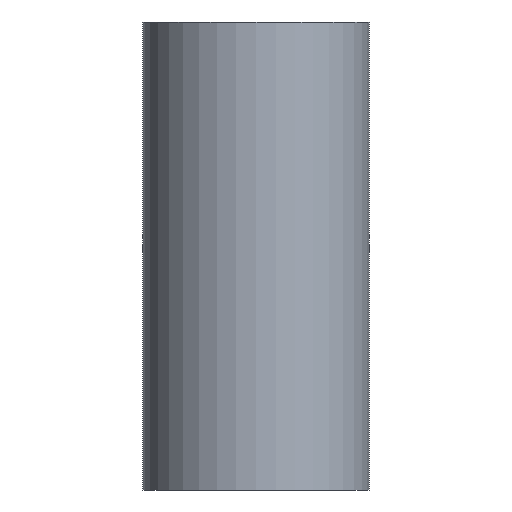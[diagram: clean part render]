
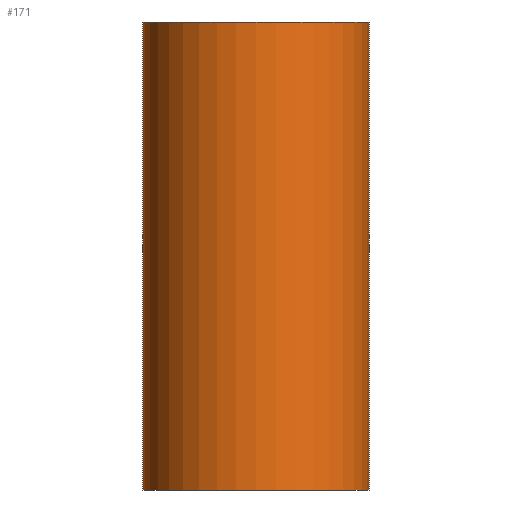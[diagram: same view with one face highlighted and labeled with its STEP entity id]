
A CAD part, front view. The second image highlights one B-rep face of the part: STEP entity #171.
In plain terms, the highlighted cylindrical face has radius 24.15 mm (diameter 48.3 mm), a partial arc.
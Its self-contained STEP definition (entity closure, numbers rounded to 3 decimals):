
#8 = DIRECTION ( 'NONE',  ( 1., 0., 0. ) ) ;
#9 = DIRECTION ( 'NONE',  ( 0., 0., 1. ) ) ;
#10 = CARTESIAN_POINT ( 'NONE',  ( 0., 0., -100. ) ) ;
#11 = AXIS2_PLACEMENT_3D ( 'NONE', #10, #9, #8 ) ;
#12 = CIRCLE ( 'NONE', #11, 24.15 ) ;
#146 = EDGE_CURVE ( 'NONE', #151, #148, #280, .T. ) ;
#148 = VERTEX_POINT ( 'NONE', #286 ) ;
#151 = VERTEX_POINT ( 'NONE', #281 ) ;
#152 = VERTEX_POINT ( 'NONE', #285 ) ;
#160 = EDGE_CURVE ( 'NONE', #152, #169, #321, .T. ) ;
#169 = VERTEX_POINT ( 'NONE', #341 ) ;
#171 = ADVANCED_FACE ( 'NONE', ( #334 ), #320, .T. ) ;
#172 = EDGE_LOOP ( 'NONE', ( #173, #249, #250, #186 ) ) ;
#173 = ORIENTED_EDGE ( 'NONE', *, *, #146, .F. ) ;
#186 = ORIENTED_EDGE ( 'NONE', *, *, #205, .F. ) ;
#205 = EDGE_CURVE ( 'NONE', #148, #169, #355, .T. ) ;
#249 = ORIENTED_EDGE ( 'NONE', *, *, #265, .T. ) ;
#250 = ORIENTED_EDGE ( 'NONE', *, *, #160, .T. ) ;
#265 = EDGE_CURVE ( 'NONE', #151, #152, #12, .T. ) ;
#280 = LINE ( 'NONE', #283, #282 ) ;
#281 = CARTESIAN_POINT ( 'NONE',  ( -24.15, 0., -100. ) ) ;
#282 = VECTOR ( 'NONE', #288, 1000. ) ;
#283 = CARTESIAN_POINT ( 'NONE',  ( -24.15, 0., 0. ) ) ;
#285 = CARTESIAN_POINT ( 'NONE',  ( 24.15, 0., -100. ) ) ;
#286 = CARTESIAN_POINT ( 'NONE',  ( -24.15, 0., 0. ) ) ;
#288 = DIRECTION ( 'NONE',  ( 0., 0., 1. ) ) ;
#318 = DIRECTION ( 'NONE',  ( 0., 0., 1. ) ) ;
#319 = AXIS2_PLACEMENT_3D ( 'NONE', #339, #333, #324 ) ;
#320 = CYLINDRICAL_SURFACE ( 'NONE', #319, 24.15 ) ;
#321 = LINE ( 'NONE', #354, #338 ) ;
#324 = DIRECTION ( 'NONE',  ( 1., 0., 0. ) ) ;
#333 = DIRECTION ( 'NONE',  ( 0., 0., 1. ) ) ;
#334 = FACE_OUTER_BOUND ( 'NONE', #172, .T. ) ;
#338 = VECTOR ( 'NONE', #318, 1000. ) ;
#339 = CARTESIAN_POINT ( 'NONE',  ( 0., 0., 0. ) ) ;
#341 = CARTESIAN_POINT ( 'NONE',  ( 24.15, 0., 0. ) ) ;
#354 = CARTESIAN_POINT ( 'NONE',  ( 24.15, 0., 0. ) ) ;
#355 = CIRCLE ( 'NONE', #372, 24.15 ) ;
#370 = DIRECTION ( 'NONE',  ( 0., 0., 1. ) ) ;
#371 = CARTESIAN_POINT ( 'NONE',  ( 0., 0., 0. ) ) ;
#372 = AXIS2_PLACEMENT_3D ( 'NONE', #371, #370, #392 ) ;
#392 = DIRECTION ( 'NONE',  ( 1., 0., 0. ) ) ;
